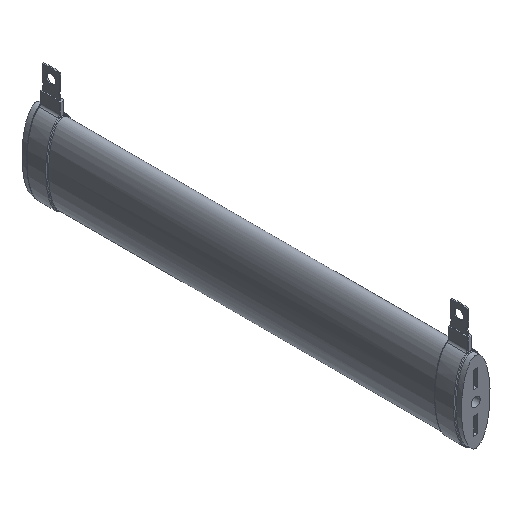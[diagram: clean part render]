
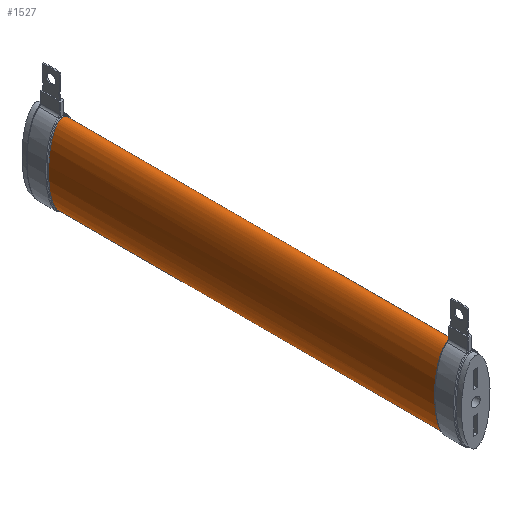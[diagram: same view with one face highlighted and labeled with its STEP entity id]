
A CAD part, isometric view. The second image highlights one B-rep face of the part: STEP entity #1527.
In plain terms, the highlighted free-form (B-spline) face has degree [1, 2] with [2, 9] control points.
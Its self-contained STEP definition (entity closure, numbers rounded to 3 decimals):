
#16=(
BOUNDED_SURFACE()
B_SPLINE_SURFACE(1,2,((#3281,#3282,#3283,#3284,#3285,#3286,#3287,#3288,
#3289),(#3290,#3291,#3292,#3293,#3294,#3295,#3296,#3297,#3298)),
 .UNSPECIFIED.,.F.,.T.,.F.)
B_SPLINE_SURFACE_WITH_KNOTS((2,2),(3,2,2,2,3),(0.66,10.268),
(-3.142,-1.571,0.,1.571,3.142),
 .UNSPECIFIED.)
GEOMETRIC_REPRESENTATION_ITEM()
RATIONAL_B_SPLINE_SURFACE(((1.,0.707,1.,0.707,1.,
0.707,1.,0.707,1.),(1.,0.707,1.,0.707,
1.,0.707,1.,0.707,1.)))
REPRESENTATION_ITEM($)
SURFACE()
);
#55=B_SPLINE_CURVE_WITH_KNOTS($,3,(#3249,#3250,#3251,#3252,#3253,#3254,
#3255,#3256,#3257,#3258,#3259,#3260,#3261,#3262,#3263,#3264),
 .UNSPECIFIED.,.F.,.F.,(4,1,1,1,1,1,1,1,1,1,1,1,1,4),(-6.283,
-6.171,-6.059,-5.834,-5.386,
-4.937,-4.712,-4.488,-4.039,
-3.59,-3.441,-3.291,-3.216,
-3.142),.UNSPECIFIED.);
#56=B_SPLINE_CURVE_WITH_KNOTS($,3,(#3265,#3266,#3267,#3268,#3269,#3270,
#3271,#3272,#3273,#3274,#3275,#3276,#3277,#3278,#3279),.UNSPECIFIED.,.F.,
 .F.,(4,1,1,1,1,1,1,1,1,1,1,1,4),(-3.142,-3.142,-2.992,
-2.842,-2.693,-2.394,-2.094,
-1.795,-0.898,-0.449,-0.224,
-0.112,0.),.UNSPECIFIED.);
#57=B_SPLINE_CURVE_WITH_KNOTS($,1,(#3300,#3301),.UNSPECIFIED.,.F.,.F.,(2,
2),(-10.268,-0.661),.UNSPECIFIED.);
#58=B_SPLINE_CURVE_WITH_KNOTS($,3,(#3303,#3304,#3305,#3306),
 .UNSPECIFIED.,.F.,.F.,(4,4),(-3.238,-3.142),
 .UNSPECIFIED.);
#59=B_SPLINE_CURVE_WITH_KNOTS($,3,(#3308,#3309,#3310,#3311),
 .UNSPECIFIED.,.F.,.F.,(4,4),(-0.22,0.),
 .UNSPECIFIED.);
#60=B_SPLINE_CURVE_WITH_KNOTS($,3,(#3313,#3314,#3315,#3316,#3317,#3318,
#3319,#3320,#3321,#3322,#3323,#3324,#3325,#3326,#3327,#3328,#3329,#3330,
#3331,#3332,#3333,#3334,#3335,#3336),.UNSPECIFIED.,.F.,.F.,(4,1,1,1,1,1,
1,1,1,1,1,1,1,1,1,1,1,1,1,1,1,4),(-6.283,-6.171,-6.059,
-5.834,-5.386,-4.488,-3.89,
-3.59,-3.441,-3.291,-3.142,
-3.067,-2.992,-2.842,-2.693,
-2.244,-1.795,-0.898,-0.449,
-0.224,-0.112,0.),
 .UNSPECIFIED.);
#61=B_SPLINE_CURVE_WITH_KNOTS($,3,(#3338,#3339,#3340,#3341),
 .UNSPECIFIED.,.F.,.F.,(4,4),(-6.283,0.),
 .UNSPECIFIED.);
#62=B_SPLINE_CURVE_WITH_KNOTS($,3,(#3342,#3343,#3344,#3345,#3346),
 .UNSPECIFIED.,.F.,.F.,(4,1,4),(-3.142,-3.128,-3.046),
 .UNSPECIFIED.);
#263=FACE_OUTER_BOUND($,#353,.T.);
#353=EDGE_LOOP($,(#1165,#1166,#1167,#1168,#1169,#1170,#1171,#1172,#1173));
#645=VERTEX_POINT($,#3246);
#646=VERTEX_POINT($,#3248);
#647=VERTEX_POINT($,#3299);
#648=VERTEX_POINT($,#3302);
#649=VERTEX_POINT($,#3307);
#650=VERTEX_POINT($,#3312);
#651=VERTEX_POINT($,#3337);
#829=EDGE_CURVE($,#645,#646,#55,.T.);
#830=EDGE_CURVE($,#646,#645,#56,.T.);
#831=EDGE_CURVE($,#646,#647,#57,.T.);
#832=EDGE_CURVE($,#648,#647,#58,.T.);
#833=EDGE_CURVE($,#649,#648,#59,.T.);
#834=EDGE_CURVE($,#650,#649,#60,.T.);
#835=EDGE_CURVE($,#651,#650,#61,.T.);
#836=EDGE_CURVE($,#647,#651,#62,.T.);
#1165=ORIENTED_EDGE($,*,*,#829,.F.);
#1166=ORIENTED_EDGE($,*,*,#830,.F.);
#1167=ORIENTED_EDGE($,*,*,#831,.T.);
#1168=ORIENTED_EDGE($,*,*,#832,.F.);
#1169=ORIENTED_EDGE($,*,*,#833,.F.);
#1170=ORIENTED_EDGE($,*,*,#834,.F.);
#1171=ORIENTED_EDGE($,*,*,#835,.F.);
#1172=ORIENTED_EDGE($,*,*,#836,.F.);
#1173=ORIENTED_EDGE($,*,*,#831,.F.);
#1527=ADVANCED_FACE($,(#263),#16,.F.);
#3246=CARTESIAN_POINT('',(0.,143.75,-14.));
#3248=CARTESIAN_POINT('',(0.,143.75,14.));
#3249=CARTESIAN_POINT('Ctrl Pts',(0.,143.75,-13.999));
#3250=CARTESIAN_POINT('Ctrl Pts',(-0.336,143.75,-13.999));
#3251=CARTESIAN_POINT('Ctrl Pts',(-1.012,143.75,-13.795));
#3252=CARTESIAN_POINT('Ctrl Pts',(-2.113,143.75,-12.838));
#3253=CARTESIAN_POINT('Ctrl Pts',(-3.447,143.75,-10.554));
#3254=CARTESIAN_POINT('Ctrl Pts',(-4.474,143.75,-6.874));
#3255=CARTESIAN_POINT('Ctrl Pts',(-4.934,143.75,-3.068));
#3256=CARTESIAN_POINT('Ctrl Pts',(-5.022,143.75,-0.008));
#3257=CARTESIAN_POINT('Ctrl Pts',(-4.936,143.75,3.048));
#3258=CARTESIAN_POINT('Ctrl Pts',(-4.475,143.75,6.875));
#3259=CARTESIAN_POINT('Ctrl Pts',(-3.519,143.75,10.301));
#3260=CARTESIAN_POINT('Ctrl Pts',(-2.303,143.75,12.521));
#3261=CARTESIAN_POINT('Ctrl Pts',(-1.491,143.75,13.44));
#3262=CARTESIAN_POINT('Ctrl Pts',(-0.672,143.75,13.912));
#3263=CARTESIAN_POINT('Ctrl Pts',(-0.221,143.75,14.));
#3264=CARTESIAN_POINT('Ctrl Pts',(0.002,143.75,13.999));
#3265=CARTESIAN_POINT('Ctrl Pts',(0.,143.75,13.999));
#3266=CARTESIAN_POINT('Ctrl Pts',(0.003,143.75,13.999));
#3267=CARTESIAN_POINT('Ctrl Pts',(0.454,143.75,13.997));
#3268=CARTESIAN_POINT('Ctrl Pts',(1.338,143.75,13.626));
#3269=CARTESIAN_POINT('Ctrl Pts',(2.312,143.75,12.5));
#3270=CARTESIAN_POINT('Ctrl Pts',(3.28,143.75,10.75));
#3271=CARTESIAN_POINT('Ctrl Pts',(4.082,143.75,8.34));
#3272=CARTESIAN_POINT('Ctrl Pts',(4.671,143.75,5.347));
#3273=CARTESIAN_POINT('Ctrl Pts',(5.169,143.75,0.266));
#3274=CARTESIAN_POINT('Ctrl Pts',(4.874,143.75,-5.384));
#3275=CARTESIAN_POINT('Ctrl Pts',(3.45,143.75,-10.551));
#3276=CARTESIAN_POINT('Ctrl Pts',(2.113,143.75,-12.838));
#3277=CARTESIAN_POINT('Ctrl Pts',(1.006,143.75,-13.798));
#3278=CARTESIAN_POINT('Ctrl Pts',(0.336,143.75,-13.999));
#3279=CARTESIAN_POINT('Ctrl Pts',(0.,143.75,-13.999));
#3281=CARTESIAN_POINT('Ctrl Pts',(0.,9.247,
14.));
#3282=CARTESIAN_POINT('Ctrl Pts',(5.,9.247,14.));
#3283=CARTESIAN_POINT('Ctrl Pts',(5.,9.247,0.));
#3284=CARTESIAN_POINT('Ctrl Pts',(5.,9.247,-14.));
#3285=CARTESIAN_POINT('Ctrl Pts',(0.,9.247,
-14.));
#3286=CARTESIAN_POINT('Ctrl Pts',(-5.,9.247,-14.));
#3287=CARTESIAN_POINT('Ctrl Pts',(-5.,9.247,0.));
#3288=CARTESIAN_POINT('Ctrl Pts',(-5.,9.247,14.));
#3289=CARTESIAN_POINT('Ctrl Pts',(0.,9.247,
14.));
#3290=CARTESIAN_POINT('Ctrl Pts',(0.,143.75,14.));
#3291=CARTESIAN_POINT('Ctrl Pts',(5.,143.75,14.));
#3292=CARTESIAN_POINT('Ctrl Pts',(5.,143.75,0.));
#3293=CARTESIAN_POINT('Ctrl Pts',(5.,143.75,-14.));
#3294=CARTESIAN_POINT('Ctrl Pts',(0.,143.75,-14.));
#3295=CARTESIAN_POINT('Ctrl Pts',(-5.,143.75,-14.));
#3296=CARTESIAN_POINT('Ctrl Pts',(-5.,143.75,0.));
#3297=CARTESIAN_POINT('Ctrl Pts',(-5.,143.75,14.));
#3298=CARTESIAN_POINT('Ctrl Pts',(0.,143.75,14.));
#3299=CARTESIAN_POINT('',(0.,9.25,14.));
#3300=CARTESIAN_POINT('Ctrl Pts',(0.,143.75,14.));
#3301=CARTESIAN_POINT('Ctrl Pts',(0.,9.25,14.));
#3302=CARTESIAN_POINT('',(0.844,9.25,13.799));
#3303=CARTESIAN_POINT('Ctrl Pts',(0.844,9.25,13.799));
#3304=CARTESIAN_POINT('Ctrl Pts',(0.578,9.25,13.927));
#3305=CARTESIAN_POINT('Ctrl Pts',(0.289,9.25,13.999));
#3306=CARTESIAN_POINT('Ctrl Pts',(0.,9.25,14.));
#3307=CARTESIAN_POINT('',(0.992,9.249,13.722));
#3308=CARTESIAN_POINT('Ctrl Pts',(0.992,9.249,13.722));
#3309=CARTESIAN_POINT('Ctrl Pts',(0.943,9.249,13.749));
#3310=CARTESIAN_POINT('Ctrl Pts',(0.894,9.25,13.775));
#3311=CARTESIAN_POINT('Ctrl Pts',(0.844,9.25,13.799));
#3312=CARTESIAN_POINT('',(-0.992,9.249,13.722));
#3313=CARTESIAN_POINT('Ctrl Pts',(-0.992,9.249,13.722));
#3314=CARTESIAN_POINT('Ctrl Pts',(-1.286,9.249,13.555));
#3315=CARTESIAN_POINT('Ctrl Pts',(-1.819,9.247,13.099));
#3316=CARTESIAN_POINT('Ctrl Pts',(-2.67,9.246,11.95));
#3317=CARTESIAN_POINT('Ctrl Pts',(-3.752,9.248,9.625));
#3318=CARTESIAN_POINT('Ctrl Pts',(-4.951,9.25,4.594));
#3319=CARTESIAN_POINT('Ctrl Pts',(-5.181,9.25,-1.821));
#3320=CARTESIAN_POINT('Ctrl Pts',(-4.328,9.25,-7.682));
#3321=CARTESIAN_POINT('Ctrl Pts',(-3.205,9.247,-10.924));
#3322=CARTESIAN_POINT('Ctrl Pts',(-2.245,9.246,-12.594));
#3323=CARTESIAN_POINT('Ctrl Pts',(-1.289,9.249,-13.662));
#3324=CARTESIAN_POINT('Ctrl Pts',(-0.216,9.25,-14.085));
#3325=CARTESIAN_POINT('Ctrl Pts',(0.653,9.25,-13.917));
#3326=CARTESIAN_POINT('Ctrl Pts',(1.451,9.248,-13.474));
#3327=CARTESIAN_POINT('Ctrl Pts',(2.25,9.246,-12.594));
#3328=CARTESIAN_POINT('Ctrl Pts',(3.438,9.247,-10.492));
#3329=CARTESIAN_POINT('Ctrl Pts',(4.411,9.25,-7.174));
#3330=CARTESIAN_POINT('Ctrl Pts',(5.167,9.25,-1.338));
#3331=CARTESIAN_POINT('Ctrl Pts',(4.948,9.25,4.609));
#3332=CARTESIAN_POINT('Ctrl Pts',(3.752,9.248,9.625));
#3333=CARTESIAN_POINT('Ctrl Pts',(2.671,9.246,11.948));
#3334=CARTESIAN_POINT('Ctrl Pts',(1.822,9.247,13.097));
#3335=CARTESIAN_POINT('Ctrl Pts',(1.286,9.249,13.555));
#3336=CARTESIAN_POINT('Ctrl Pts',(0.992,9.249,13.722));
#3337=CARTESIAN_POINT('',(-0.844,9.25,13.799));
#3338=CARTESIAN_POINT('Ctrl Pts',(-0.844,9.25,13.799));
#3339=CARTESIAN_POINT('Ctrl Pts',(-0.894,9.25,13.775));
#3340=CARTESIAN_POINT('Ctrl Pts',(-0.943,9.249,13.749));
#3341=CARTESIAN_POINT('Ctrl Pts',(-0.992,9.249,13.722));
#3342=CARTESIAN_POINT('Ctrl Pts',(0.,9.25,14.));
#3343=CARTESIAN_POINT('Ctrl Pts',(-0.041,9.25,14.));
#3344=CARTESIAN_POINT('Ctrl Pts',(-0.33,9.25,13.991));
#3345=CARTESIAN_POINT('Ctrl Pts',(-0.615,9.25,13.909));
#3346=CARTESIAN_POINT('Ctrl Pts',(-0.844,9.25,13.799));
